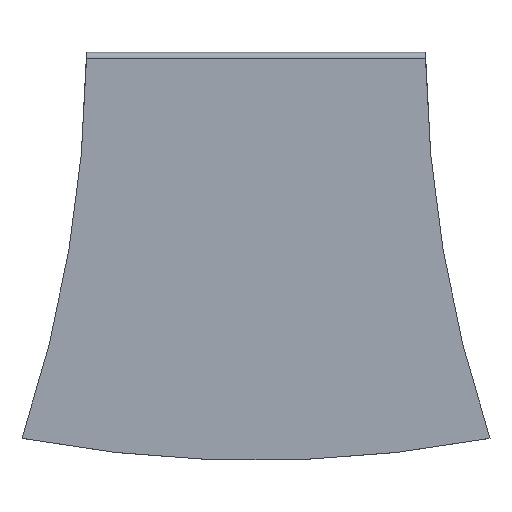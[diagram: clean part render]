
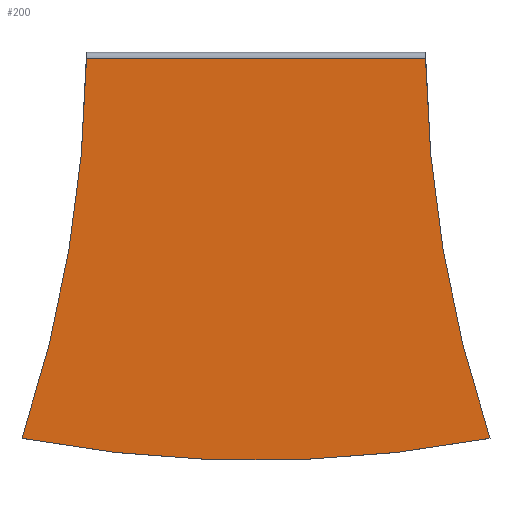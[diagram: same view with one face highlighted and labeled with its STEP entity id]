
A CAD part, top view. The second image highlights one B-rep face of the part: STEP entity #200.
In plain terms, the highlighted planar face has unit normal (0, 0, 1).
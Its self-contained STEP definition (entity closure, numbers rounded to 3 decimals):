
#32 = VERTEX_POINT('',#33);
#33 = CARTESIAN_POINT('',(6.005,-0.7,1.));
#44 = EDGE_CURVE('',#32,#45,#47,.T.);
#45 = VERTEX_POINT('',#46);
#46 = CARTESIAN_POINT('',(8.291,-14.174,1.));
#47 = CIRCLE('',#48,45.);
#48 = AXIS2_PLACEMENT_3D('',#49,#50,#51);
#49 = CARTESIAN_POINT('',(51.,0.,1.));
#50 = DIRECTION('',(0.,0.,1.));
#51 = DIRECTION('',(1.,0.,0.));
#150 = VERTEX_POINT('',#151);
#151 = CARTESIAN_POINT('',(-6.005,-0.7,1.));
#162 = EDGE_CURVE('',#150,#32,#163,.T.);
#163 = LINE('',#164,#165);
#164 = CARTESIAN_POINT('',(-6.003,-0.7,1.));
#165 = VECTOR('',#166,1.);
#166 = DIRECTION('',(1.,0.,0.));
#200 = ADVANCED_FACE('',(#201),#221,.T.);
#201 = FACE_BOUND('',#202,.T.);
#202 = EDGE_LOOP('',(#203,#204,#205,#214));
#203 = ORIENTED_EDGE('',*,*,#44,.F.);
#204 = ORIENTED_EDGE('',*,*,#162,.F.);
#205 = ORIENTED_EDGE('',*,*,#206,.F.);
#206 = EDGE_CURVE('',#207,#150,#209,.T.);
#207 = VERTEX_POINT('',#208);
#208 = CARTESIAN_POINT('',(-8.291,-14.174,1.));
#209 = CIRCLE('',#210,45.);
#210 = AXIS2_PLACEMENT_3D('',#211,#212,#213);
#211 = CARTESIAN_POINT('',(-51.,0.,1.));
#212 = DIRECTION('',(0.,0.,1.));
#213 = DIRECTION('',(1.,0.,0.));
#214 = ORIENTED_EDGE('',*,*,#215,.T.);
#215 = EDGE_CURVE('',#207,#45,#216,.T.);
#216 = CIRCLE('',#217,44.4);
#217 = AXIS2_PLACEMENT_3D('',#218,#219,#220);
#218 = CARTESIAN_POINT('',(0.,29.445,1.));
#219 = DIRECTION('',(0.,0.,1.));
#220 = DIRECTION('',(1.,0.,0.));
#221 = PLANE('',#222);
#222 = AXIS2_PLACEMENT_3D('',#223,#224,#225);
#223 = CARTESIAN_POINT('',(0.,-8.064,1.));
#224 = DIRECTION('',(0.,0.,1.));
#225 = DIRECTION('',(1.,0.,0.));
